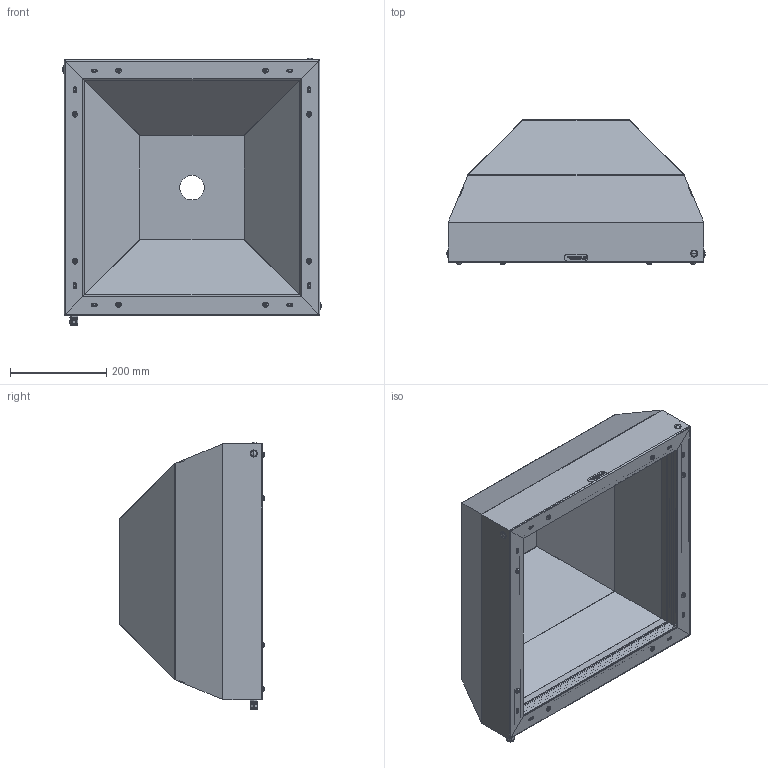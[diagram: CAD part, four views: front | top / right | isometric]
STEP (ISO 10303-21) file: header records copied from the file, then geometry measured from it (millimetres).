
FILE_DESCRIPTION (( 'STEP AP214' ), '1' );
FILE_NAME ('DL071_Default.stp', '2021-05-17T18:35:02', ( '' ), ( '' ), 'SwSTEP 2.0', 'SolidWorks 2018', '' );
FILE_SCHEMA (( 'AUTOMOTIVE_DESIGN' ));
Length unit declared in the file: inch
Products named in the file (17): 091237; 92505A070_92505A065; NP-07-BR_Default<As Machined>; 090639; 091053; 091236; 091253_Default<As Machined>; HN-M6_90592A016; DL071_Default; 252-02-001; BH-M6X8_92095A239; 091109_Default<As Machined>; 2491; CD07AA-BK; 252-01-003
Assembly tree (61 placements, depth 3):
  DL071_Default
    252-02-001
      091237
      091236  x2
    090639  x3
      252-01-003
      091109_Default<As Machined>
    090639
      252-01-003
    HN-M6_90592A016  x16
    091253_Default<As Machined>  x16
    BH-M6X8_92095A239  x8
    CD07AA-BK
    NP-07-BR_Default<As Machined>
    2491  x3
    92505A070_92505A065  x2
    091053  x2
      091053
Bounding box: 537.07 x 300.59 x 555.05 mm (x, y, z)
Volume: 2239226.5 mm3; surface area: 2048165.7 mm2
Topology: 60 solids, 60 shells, 3741 faces, 8910 edges, 5370 vertices
Faces by surface type: plane 1238, cylinder 1217, cone 1184, bspline 72, sphere 22, torus 8
Entity records: 42779 total; most frequent: CARTESIAN_POINT 12003, ORIENTED_EDGE 5012, DIRECTION 4739, EDGE_CURVE 2506, AXIS2_PLACEMENT_3D 1625, VERTEX_POINT 1577, LINE 1489, VECTOR 1489
